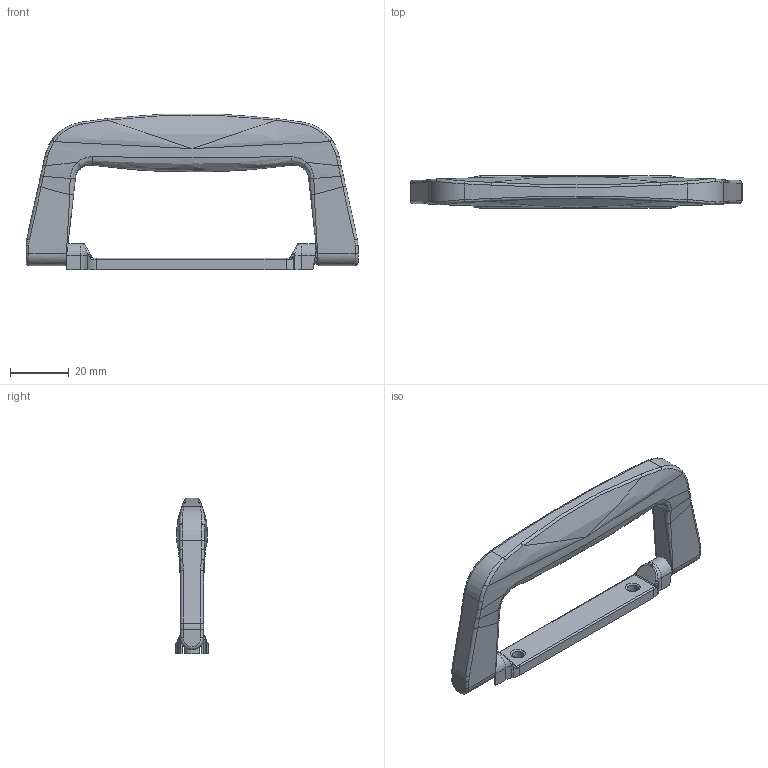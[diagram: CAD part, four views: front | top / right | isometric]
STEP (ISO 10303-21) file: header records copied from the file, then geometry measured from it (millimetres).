
FILE_DESCRIPTION(/* description */ (''),/* implementation_level */ '2;1');
FILE_NAME(/* name */ '\\NAS\db20\A-007-10\DR_A-007-10.stp',/* time_stamp */ '2018-08-08T14:13:33+09:00',/* author */ ('user'),/* organization */ (''),/* preprocessor_version */ 'ST-DEVELOPER v15.6',/* originating_system */ 'Autodesk Inventor 2015',/* authorisation */ '');
FILE_SCHEMA (('AUTOMOTIVE_DESIGN { 1 0 10303 214 3 1 1 }'));
Length unit declared in the file: millimetre
Products named in the file (3): DR_A-007-10; DR_A-007-10-P
Bounding box: 113.5 x 11 x 53.33 mm (x, y, z)
Volume: 23036 mm3; surface area: 11169.5 mm2
Topology: 2 solids, 2 shells, 222 faces, 542 edges, 310 vertices
Faces by surface type: bspline 95, cylinder 60, plane 47, torus 20
Full cylindrical faces by diameter (mm): 4 x2, 5.2 x2, 6 x2
Entity records: 10047 total; most frequent: CARTESIAN_POINT 5483, ORIENTED_EDGE 1028, DIRECTION 766, EDGE_CURVE 514, AXIS2_PLACEMENT_3D 317, VERTEX_POINT 306, EDGE_LOOP 236, FACE_OUTER_BOUND 222
